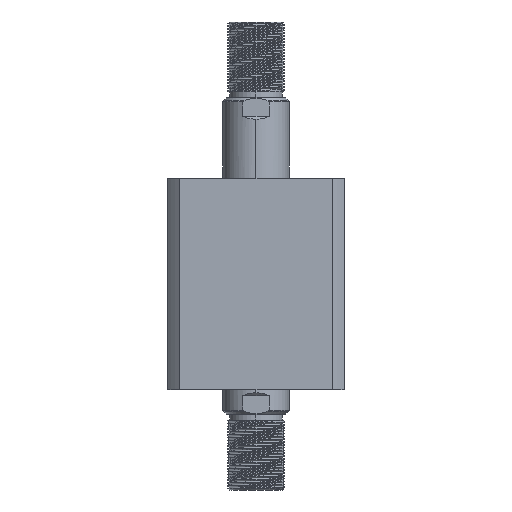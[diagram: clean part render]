
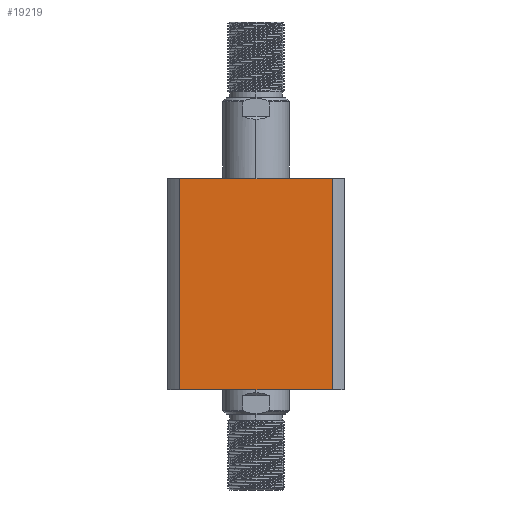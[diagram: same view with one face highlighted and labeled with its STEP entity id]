
A CAD part, left-side view. The second image highlights one B-rep face of the part: STEP entity #19219.
In plain terms, the highlighted planar face has unit normal (-1, 0, 0).
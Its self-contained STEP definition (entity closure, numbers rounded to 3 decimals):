
#416 = CARTESIAN_POINT ( 'NONE',  ( -47., 47., 112. ) ) ;
#644 = ORIENTED_EDGE ( 'NONE', *, *, #18717, .F. ) ;
#818 = DIRECTION ( 'NONE',  ( 0., 0., -1. ) ) ;
#1323 = CARTESIAN_POINT ( 'NONE',  ( -47., 40.435, 112. ) ) ;
#1378 = EDGE_CURVE ( 'NONE', #14375, #3236, #6201, .T. ) ;
#1765 = ORIENTED_EDGE ( 'NONE', *, *, #24551, .F. ) ;
#1851 = PLANE ( 'NONE',  #19041 ) ;
#2178 = CARTESIAN_POINT ( 'NONE',  ( -47., 47., 0. ) ) ;
#3034 = FACE_OUTER_BOUND ( 'NONE', #18115, .T. ) ;
#3236 = VERTEX_POINT ( 'NONE', #7026 ) ;
#4392 = EDGE_CURVE ( 'NONE', #13531, #25555, #11642, .T. ) ;
#5975 = VECTOR ( 'NONE', #17117, 1000. ) ;
#6201 = LINE ( 'NONE', #416, #23872 ) ;
#6224 = DIRECTION ( 'NONE',  ( 0., 1., 0. ) ) ;
#6359 = VECTOR ( 'NONE', #818, 1000. ) ;
#6936 = VECTOR ( 'NONE', #9325, 1000. ) ;
#7016 = LINE ( 'NONE', #26368, #6359 ) ;
#7026 = CARTESIAN_POINT ( 'NONE',  ( -47., -40.435, 112. ) ) ;
#9325 = DIRECTION ( 'NONE',  ( 0., 0., 1. ) ) ;
#9998 = ORIENTED_EDGE ( 'NONE', *, *, #1378, .F. ) ;
#11456 = CARTESIAN_POINT ( 'NONE',  ( -47., 40.435, 300. ) ) ;
#11642 = LINE ( 'NONE', #2178, #5975 ) ;
#11864 = CARTESIAN_POINT ( 'NONE',  ( -47., 40.435, 0. ) ) ;
#11954 = LINE ( 'NONE', #11456, #6936 ) ;
#13531 = VERTEX_POINT ( 'NONE', #11864 ) ;
#14375 = VERTEX_POINT ( 'NONE', #1323 ) ;
#16874 = CARTESIAN_POINT ( 'NONE',  ( -47., 47., 112. ) ) ;
#17117 = DIRECTION ( 'NONE',  ( 0., -1., 0. ) ) ;
#17620 = ORIENTED_EDGE ( 'NONE', *, *, #4392, .T. ) ;
#18115 = EDGE_LOOP ( 'NONE', ( #644, #9998, #1765, #17620 ) ) ;
#18717 = EDGE_CURVE ( 'NONE', #3236, #25555, #7016, .T. ) ;
#19019 = DIRECTION ( 'NONE',  ( 1., 0., 0. ) ) ;
#19041 = AXIS2_PLACEMENT_3D ( 'NONE', #16874, #19019, #6224 ) ;
#19219 = ADVANCED_FACE ( 'NONE', ( #3034 ), #1851, .F. ) ;
#19379 = DIRECTION ( 'NONE',  ( 0., -1., 0. ) ) ;
#23872 = VECTOR ( 'NONE', #19379, 1000. ) ;
#24551 = EDGE_CURVE ( 'NONE', #13531, #14375, #11954, .T. ) ;
#25555 = VERTEX_POINT ( 'NONE', #27047 ) ;
#26368 = CARTESIAN_POINT ( 'NONE',  ( -47., -40.435, 300. ) ) ;
#27047 = CARTESIAN_POINT ( 'NONE',  ( -47., -40.435, 0. ) ) ;
